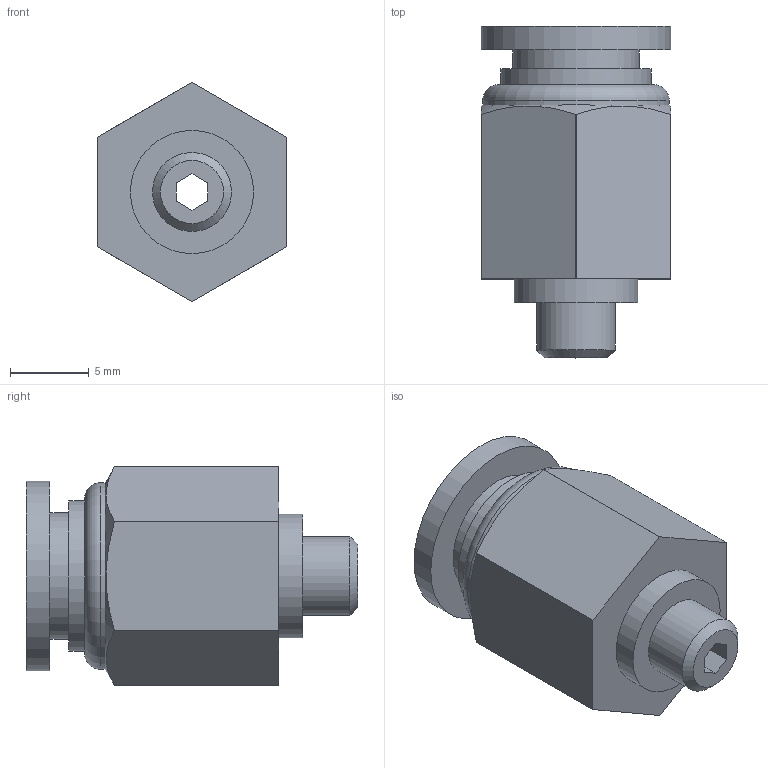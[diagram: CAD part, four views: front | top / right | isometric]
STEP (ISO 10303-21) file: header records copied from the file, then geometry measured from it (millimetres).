
FILE_DESCRIPTION((''),'2;1');
FILE_NAME('S:\UTecnico\ArchivioUT\Speciali Clienti\Speciali KONFIT\Plastica\RP\RP 51\RP51M506.stp','2012-05-21T09:15:59',('UT5'),(''),'Autodesk Inventor 2012','Autodesk Inventor 2012','');
FILE_SCHEMA(('AUTOMOTIVE_DESIGN { 1 0 10303 214 1 1 1 1 }'));
Length unit declared in the file: millimetre
Products named in the file (1): RP51M506
Bounding box: 12 x 21 x 13.85 mm (x, y, z)
Volume: 1510.6 mm3; surface area: 1371.2 mm2
Topology: 1 solids, 1 shells, 36 faces, 81 edges, 53 vertices
Faces by surface type: plane 20, cylinder 13, cone 2, torus 1
Full cylindrical faces by diameter (mm): 5 x1, 6 x1, 7.8 x1, 8 x1, 9.5 x1, 11.8 x1, 12 x1
Entity records: 986 total; most frequent: CARTESIAN_POINT 171, DIRECTION 166, ORIENTED_EDGE 140, EDGE_CURVE 70, AXIS2_PLACEMENT_3D 65, EDGE_LOOP 54, VERTEX_POINT 52, FACE_OUTER_BOUND 36
